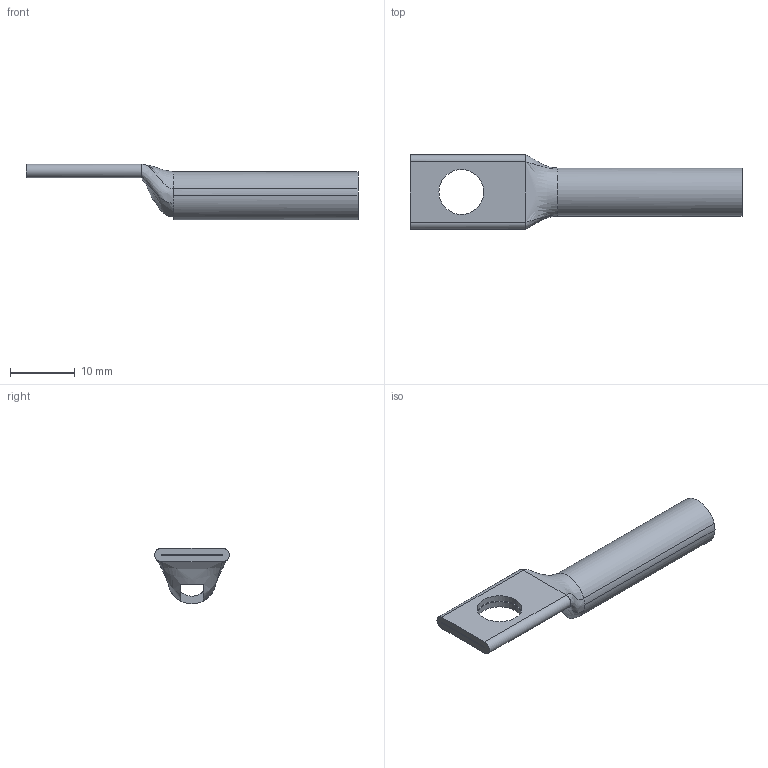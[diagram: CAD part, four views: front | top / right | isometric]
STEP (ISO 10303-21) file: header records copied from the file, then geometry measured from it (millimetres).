
FILE_DESCRIPTION (( 'STEP AP214' ), '1' );
FILE_NAME ('Terminal_CULUG_Copper_Compression-#6-YAZ6CTC14.step', '2025-12-23T15:58:11', ( '' ), ( '' ), 'SwSTEP 2.0', 'SolidWorks 2026', '' );
FILE_SCHEMA (( 'AUTOMOTIVE_DESIGN' ));
Length unit declared in the file: inch
Products named in the file (1): Terminal_CULUG_Copper_Compression-#6-YAZ6CTC14
Bounding box: 51.26 x 11.48 x 8.61 mm (x, y, z)
Volume: 1101.1 mm3; surface area: 2069.4 mm2
Topology: 1 solids, 1 shells, 36 faces, 95 edges, 58 vertices
Faces by surface type: cylinder 17, plane 10, bspline 7, cone 2
Entity records: 2838 total; most frequent: CARTESIAN_POINT 1985, ORIENTED_EDGE 188, DIRECTION 144, EDGE_CURVE 94, VERTEX_POINT 58, AXIS2_PLACEMENT_3D 56, EDGE_LOOP 42, FACE_OUTER_BOUND 36
